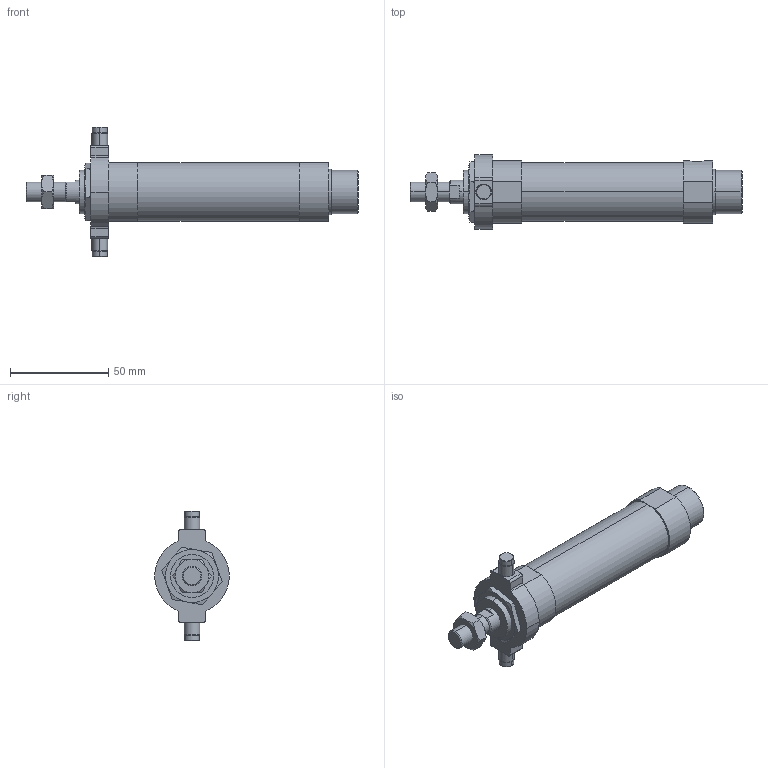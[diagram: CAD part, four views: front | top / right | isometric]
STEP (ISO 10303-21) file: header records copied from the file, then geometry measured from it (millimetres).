
FILE_DESCRIPTION (( 'STEP AP203' ), '1' );
FILE_NAME ('J#1-25-25-T.STEP', '2016-03-08T06:47:58', ( '' ), ( '' ), 'SwSTEP 2.0', 'SolidWorks 2014', '' );
FILE_SCHEMA (( 'CONFIG_CONTROL_DESIGN' ));
Length unit declared in the file: millimetre
Products named in the file (5): J#1-25-25-T; J#2-25-T; J#1-25-25
Assembly tree (4 placements, depth 2):
  J#1-25-25-T
    J#1-25-25
    (unnamed)
    J#2-25-T
    (unnamed)
Bounding box: 169 x 38 x 66 mm (x, y, z)
Volume: 104785.4 mm3; surface area: 22050.4 mm2
Topology: 4 solids, 4 shells, 132 faces, 297 edges, 179 vertices
Faces by surface type: plane 47, cylinder 45, torus 24, cone 16
Entity records: 4426 total; most frequent: CARTESIAN_POINT 971, DIRECTION 645, ORIENTED_EDGE 590, EDGE_CURVE 295, AXIS2_PLACEMENT_3D 265, VERTEX_POINT 179, EDGE_LOOP 146, FACE_OUTER_BOUND 132
